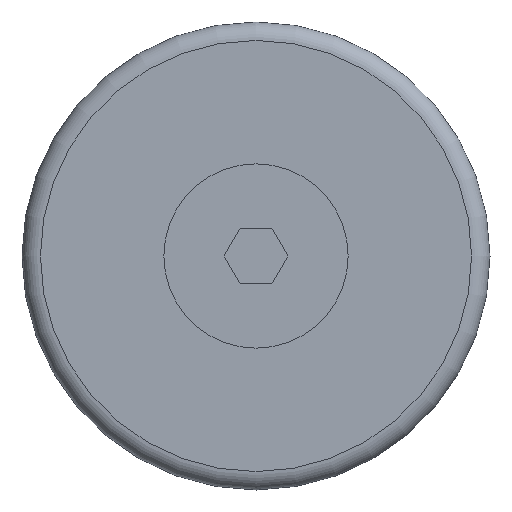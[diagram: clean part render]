
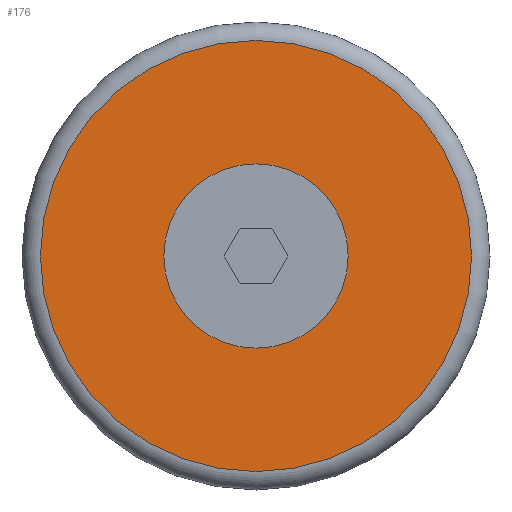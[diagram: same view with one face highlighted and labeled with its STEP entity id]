
A CAD part, front view. The second image highlights one B-rep face of the part: STEP entity #176.
In plain terms, the highlighted planar face has unit normal (0, -1, 0).
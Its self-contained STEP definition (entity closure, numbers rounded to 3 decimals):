
#176=ADVANCED_FACE('',(#238,#239),#240,.F.);
#238=FACE_BOUND('',#362,.T.);
#239=FACE_OUTER_BOUND('',#363,.T.);
#240=PLANE('',#364);
#362=EDGE_LOOP('',(#509));
#363=EDGE_LOOP('',(#510));
#364=AXIS2_PLACEMENT_3D('',#511,#512,#513);
#509=ORIENTED_EDGE('',*,*,#831,.F.);
#510=ORIENTED_EDGE('',*,*,#840,.T.);
#511=CARTESIAN_POINT('',(-5.85,-9.46,0.));
#512=DIRECTION('',(0.0,1.0,0.0));
#513=DIRECTION('',(0.0,0.0,1.0));
#831=EDGE_CURVE('',#937,#937,#938,.T.);
#840=EDGE_CURVE('',#955,#955,#956,.T.);
#937=VERTEX_POINT('',#1108);
#938=CIRCLE('',#1109,2.5);
#955=VERTEX_POINT('',#1132);
#956=CIRCLE('',#1133,5.85);
#1108=CARTESIAN_POINT('',(0.0,-9.46,-2.5));
#1109=AXIS2_PLACEMENT_3D('',#1401,#1402,#1403);
#1132=CARTESIAN_POINT('',(0.0,-9.46,-5.85));
#1133=AXIS2_PLACEMENT_3D('',#1416,#1417,#1418);
#1401=CARTESIAN_POINT('',(0.0,-9.46,0.));
#1402=DIRECTION('',(0.0,-1.0,0.0));
#1403=DIRECTION('',(0.0,0.0,-1.0));
#1416=CARTESIAN_POINT('',(0.0,-9.46,0.));
#1417=DIRECTION('',(0.0,-1.0,0.0));
#1418=DIRECTION('',(0.0,0.0,-1.0));
